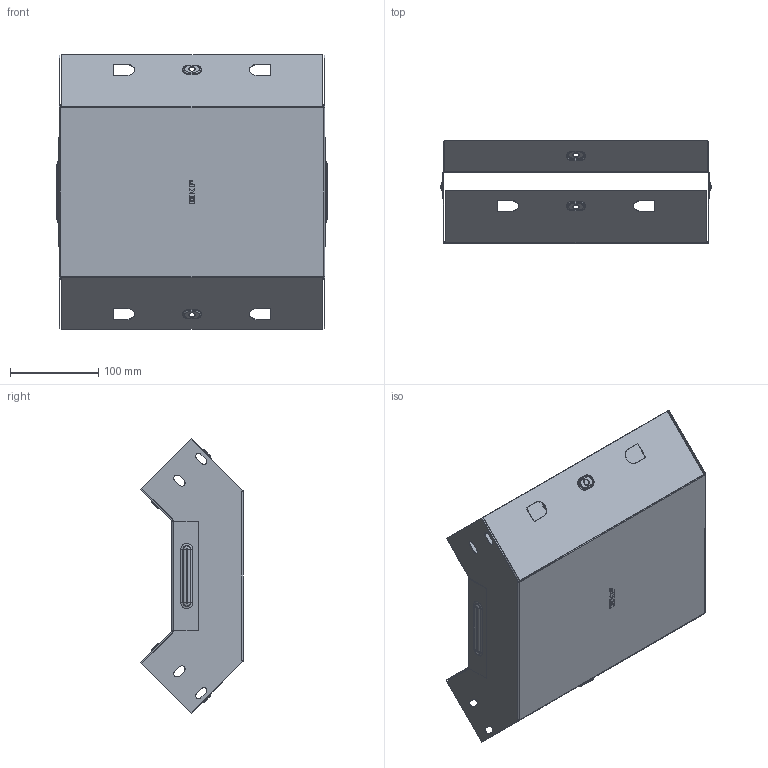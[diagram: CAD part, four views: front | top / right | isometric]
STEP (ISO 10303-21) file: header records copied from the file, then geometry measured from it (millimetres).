
FILE_DESCRIPTION (( 'STEP AP214' ), '1' );
FILE_NAME ('vi9080300_捘.STEP', '2019-06-10T09:23:17', ( '砐錪賧瘔蠈錪 Windows' ), ( '' ), 'SwSTEP 2.0', 'SolidWorks 2018', '' );
FILE_SCHEMA (( 'AUTOMOTIVE_DESIGN' ));
Length unit declared in the file: millimetre
Products named in the file (1): vi9080300_捘
Bounding box: 305.6 x 116.16 x 310.02 mm (x, y, z)
Volume: 179927.9 mm3; surface area: 452939.3 mm2
Topology: 2 solids, 2 shells, 452 faces, 1164 edges, 744 vertices
Faces by surface type: plane 242, cylinder 128, torus 64, bspline 18
Entity records: 14672 total; most frequent: CARTESIAN_POINT 3380, DIRECTION 2350, ORIENTED_EDGE 2328, EDGE_CURVE 1164, AXIS2_PLACEMENT_3D 787, LINE 776, VECTOR 776, VERTEX_POINT 744
